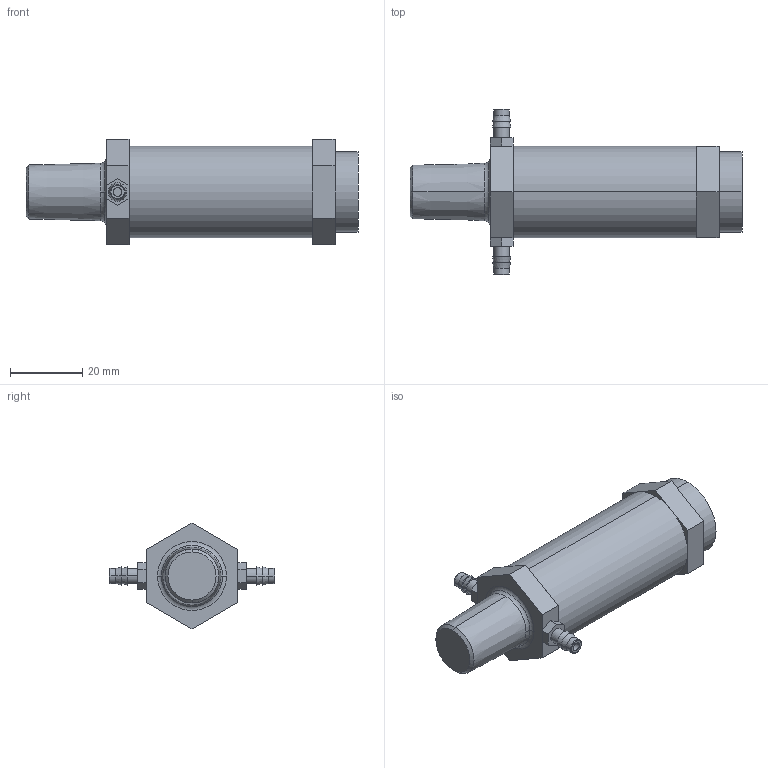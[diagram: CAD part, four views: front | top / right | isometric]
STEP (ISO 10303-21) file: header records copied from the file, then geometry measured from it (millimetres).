
FILE_DESCRIPTION((''),'2;1');
FILE_NAME('XCR2_ASM','2017-08-24T',('jennifer.elliott'),('CenterLine (Windsor) Ltd - Automation Components Division'),'PRO/ENGINEER BY PARAMETRIC TECHNOLOGY CORPORATION, 2015030','PRO/ENGINEER BY PARAMETRIC TECHNOLOGY CORPORATION, 2015030','');
FILE_SCHEMA(('AUTOMOTIVE_DESIGN { 1 0 10303 214 1 1 1 1 }'));
Length unit declared in the file: inch
Products named in the file (7): PRT0980; PRT0981; PRT0982; PRT0983; PRT0984; PRT0985; XCR2_ASM
Assembly tree (6 placements, depth 2):
  XCR2_ASM
    PRT0980
    PRT0981
    PRT0982
    PRT0983
    PRT0984
    PRT0985
Bounding box: 92.08 x 46.02 x 29.33 mm (x, y, z)
Volume: 39811.3 mm3; surface area: 11264.8 mm2
Topology: 6 solids, 6 shells, 83 faces, 177 edges, 113 vertices
Faces by surface type: plane 43, cylinder 16, torus 12, cone 12
Entity records: 2702 total; most frequent: DIRECTION 446, CARTESIAN_POINT 405, ORIENTED_EDGE 354, EDGE_CURVE 177, AXIS2_PLACEMENT_3D 173, VERTEX_POINT 113, VECTOR 100, LINE 100
